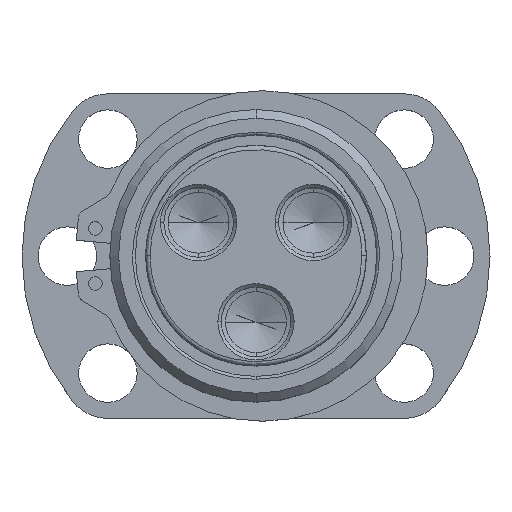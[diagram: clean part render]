
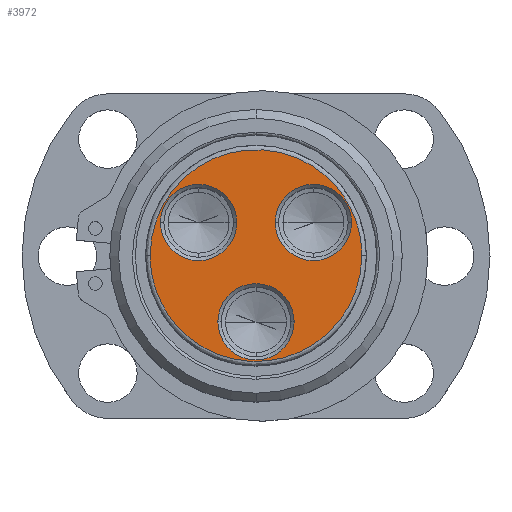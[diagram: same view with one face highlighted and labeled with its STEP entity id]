
A CAD part, top view. The second image highlights one B-rep face of the part: STEP entity #3972.
In plain terms, the highlighted planar face has unit normal (0, 0, 1).
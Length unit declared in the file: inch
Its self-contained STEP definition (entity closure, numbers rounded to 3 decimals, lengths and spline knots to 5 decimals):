
#37 = EDGE_CURVE ( 'NONE', #259, #3444, #1847, .T. ) ;
#124 = AXIS2_PLACEMENT_3D ( 'NONE', #4213, #1053, #3823 ) ;
#218 = DIRECTION ( 'NONE',  ( 0., 0., 1. ) ) ;
#245 = EDGE_CURVE ( 'NONE', #3995, #1355, #2330, .T. ) ;
#259 = VERTEX_POINT ( 'NONE', #1693 ) ;
#331 = VERTEX_POINT ( 'NONE', #4108 ) ;
#487 = AXIS2_PLACEMENT_3D ( 'NONE', #3393, #218, #2192 ) ;
#572 = DIRECTION ( 'NONE',  ( 1., 0., 0. ) ) ;
#593 = EDGE_LOOP ( 'NONE', ( #4184, #3225 ) ) ;
#612 = CARTESIAN_POINT ( 'NONE',  ( 0.959, 0., 0. ) ) ;
#644 = FACE_BOUND ( 'NONE', #4699, .T. ) ;
#677 = CARTESIAN_POINT ( 'NONE',  ( -0.959, 1.918, 0. ) ) ;
#861 = ORIENTED_EDGE ( 'NONE', *, *, #2462, .T. ) ;
#1034 = PLANE ( 'NONE',  #487 ) ;
#1053 = DIRECTION ( 'NONE',  ( 0., 0., -1. ) ) ;
#1098 = CARTESIAN_POINT ( 'NONE',  ( -0.959, 0., 0. ) ) ;
#1207 = EDGE_CURVE ( 'NONE', #1355, #3995, #1482, .T. ) ;
#1269 = DIRECTION ( 'NONE',  ( 0., 0., -1. ) ) ;
#1296 = AXIS2_PLACEMENT_3D ( 'NONE', #2951, #1410, #3349 ) ;
#1355 = VERTEX_POINT ( 'NONE', #4751 ) ;
#1371 = CARTESIAN_POINT ( 'NONE',  ( 0.3456, -0.6, 0. ) ) ;
#1410 = DIRECTION ( 'NONE',  ( 0., 0., -1. ) ) ;
#1415 = ORIENTED_EDGE ( 'NONE', *, *, #3630, .T. ) ;
#1465 = CARTESIAN_POINT ( 'NONE',  ( -0.959, 0., 0. ) ) ;
#1477 = CARTESIAN_POINT ( 'NONE',  ( 0.959, 0., 0. ) ) ;
#1482 = CIRCLE ( 'NONE', #1939, 0.3456 ) ;
#1483 = DIRECTION ( 'NONE',  ( 1., 0., 0. ) ) ;
#1565 = FACE_BOUND ( 'NONE', #2504, .T. ) ;
#1581 = DIRECTION ( 'NONE',  ( 0., 0., -1. ) ) ;
#1624 = CARTESIAN_POINT ( 'NONE',  ( -0.51962, 0.3, 0. ) ) ;
#1678 = DIRECTION ( 'NONE',  ( 0., 0., -1. ) ) ;
#1693 = CARTESIAN_POINT ( 'NONE',  ( 0.86522, 0.3, 0. ) ) ;
#1767 = CIRCLE ( 'NONE', #3130, 0.3456 ) ;
#1847 = CIRCLE ( 'NONE', #2805, 0.3456 ) ;
#1872 = AXIS2_PLACEMENT_3D ( 'NONE', #1624, #1269, #2451 ) ;
#1899 = ORIENTED_EDGE ( 'NONE', *, *, #37, .T. ) ;
#1939 = AXIS2_PLACEMENT_3D ( 'NONE', #3916, #1581, #4705 ) ;
#2192 = DIRECTION ( 'NONE',  ( 1., 0., 0. ) ) ;
#2299 = CARTESIAN_POINT ( 'NONE',  ( 0.959, 0., 0. ) ) ;
#2330 = CIRCLE ( 'NONE', #1872, 0.3456 ) ;
#2435 = VERTEX_POINT ( 'NONE', #1098 ) ;
#2442 = ORIENTED_EDGE ( 'NONE', *, *, #4993, .T. ) ;
#2451 = DIRECTION ( 'NONE',  ( 1., 0., 0. ) ) ;
#2462 = EDGE_CURVE ( 'NONE', #4876, #331, #3748, .T. ) ;
#2504 = EDGE_LOOP ( 'NONE', ( #1899, #2442 ) ) ;
#2528 = VERTEX_POINT ( 'NONE', #612 ) ;
#2642 = EDGE_CURVE ( 'NONE', #2528, #2435, #3448, .T. ) ;
#2805 = AXIS2_PLACEMENT_3D ( 'NONE', #3379, #4936, #572 ) ;
#2951 = CARTESIAN_POINT ( 'NONE',  ( 0., -0.6, 0. ) ) ;
#3125 = CARTESIAN_POINT ( 'NONE',  ( -0.959, 0., 0. ) ) ;
#3130 = AXIS2_PLACEMENT_3D ( 'NONE', #4983, #1678, #1483 ) ;
#3149 = EDGE_CURVE ( 'NONE', #2435, #2528, #3517, .T. ) ;
#3225 = ORIENTED_EDGE ( 'NONE', *, *, #2642, .F. ) ;
#3230 = EDGE_LOOP ( 'NONE', ( #5011, #3381 ) ) ;
#3349 = DIRECTION ( 'NONE',  ( 1., 0., 0. ) ) ;
#3379 = CARTESIAN_POINT ( 'NONE',  ( 0.51962, 0.3, 0. ) ) ;
#3381 = ORIENTED_EDGE ( 'NONE', *, *, #1207, .T. ) ;
#3393 = CARTESIAN_POINT ( 'NONE',  ( 0., 0., 0. ) ) ;
#3440 = FACE_BOUND ( 'NONE', #3230, .T. ) ;
#3444 = VERTEX_POINT ( 'NONE', #4331 ) ;
#3448 =( BOUNDED_CURVE ( )  B_SPLINE_CURVE ( 3, ( #1477, #4607, #4630, #3125 ),
 .UNSPECIFIED., .F., .F. ) 
 B_SPLINE_CURVE_WITH_KNOTS ( ( 4, 4 ),
 ( 0., 1. ),
 .UNSPECIFIED. ) 
 CURVE ( )  GEOMETRIC_REPRESENTATION_ITEM ( )  RATIONAL_B_SPLINE_CURVE ( ( 1., 0.333, 0.333, 1. ) ) 
 REPRESENTATION_ITEM ( '' )  );
#3517 =( BOUNDED_CURVE ( )  B_SPLINE_CURVE ( 3, ( #1465, #677, #3818, #2299 ),
 .UNSPECIFIED., .F., .F. ) 
 B_SPLINE_CURVE_WITH_KNOTS ( ( 4, 4 ),
 ( 0., 1. ),
 .UNSPECIFIED. ) 
 CURVE ( )  GEOMETRIC_REPRESENTATION_ITEM ( )  RATIONAL_B_SPLINE_CURVE ( ( 1., 0.333, 0.333, 1. ) ) 
 REPRESENTATION_ITEM ( '' )  );
#3630 = EDGE_CURVE ( 'NONE', #331, #4876, #4872, .T. ) ;
#3748 = CIRCLE ( 'NONE', #124, 0.3456 ) ;
#3750 = CARTESIAN_POINT ( 'NONE',  ( -0.17402, 0.3, 0. ) ) ;
#3818 = CARTESIAN_POINT ( 'NONE',  ( 0.959, 1.918, 0. ) ) ;
#3823 = DIRECTION ( 'NONE',  ( 1., 0., 0. ) ) ;
#3916 = CARTESIAN_POINT ( 'NONE',  ( -0.51962, 0.3, 0. ) ) ;
#3972 = ADVANCED_FACE ( 'NONE', ( #4502, #644, #1565, #3440 ), #1034, .T. ) ;
#3995 = VERTEX_POINT ( 'NONE', #3750 ) ;
#4108 = CARTESIAN_POINT ( 'NONE',  ( -0.3456, -0.6, 0. ) ) ;
#4184 = ORIENTED_EDGE ( 'NONE', *, *, #3149, .F. ) ;
#4213 = CARTESIAN_POINT ( 'NONE',  ( 0., -0.6, 0. ) ) ;
#4331 = CARTESIAN_POINT ( 'NONE',  ( 0.17402, 0.3, 0. ) ) ;
#4502 = FACE_OUTER_BOUND ( 'NONE', #593, .T. ) ;
#4607 = CARTESIAN_POINT ( 'NONE',  ( 0.959, -1.918, 0. ) ) ;
#4630 = CARTESIAN_POINT ( 'NONE',  ( -0.959, -1.918, 0. ) ) ;
#4699 = EDGE_LOOP ( 'NONE', ( #861, #1415 ) ) ;
#4705 = DIRECTION ( 'NONE',  ( 1., 0., 0. ) ) ;
#4751 = CARTESIAN_POINT ( 'NONE',  ( -0.86522, 0.3, 0. ) ) ;
#4872 = CIRCLE ( 'NONE', #1296, 0.3456 ) ;
#4876 = VERTEX_POINT ( 'NONE', #1371 ) ;
#4936 = DIRECTION ( 'NONE',  ( 0., 0., -1. ) ) ;
#4983 = CARTESIAN_POINT ( 'NONE',  ( 0.51962, 0.3, 0. ) ) ;
#4993 = EDGE_CURVE ( 'NONE', #3444, #259, #1767, .T. ) ;
#5011 = ORIENTED_EDGE ( 'NONE', *, *, #245, .T. ) ;
